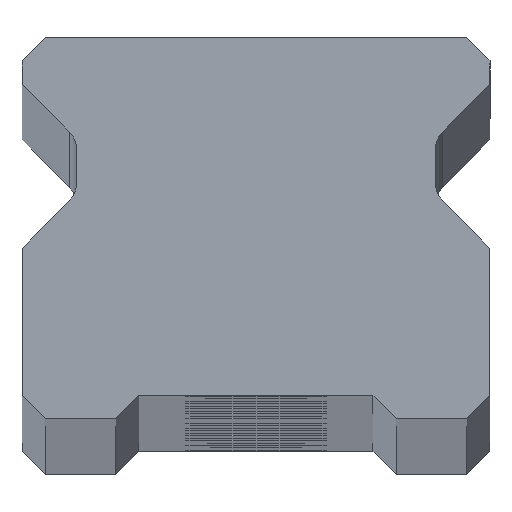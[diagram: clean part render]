
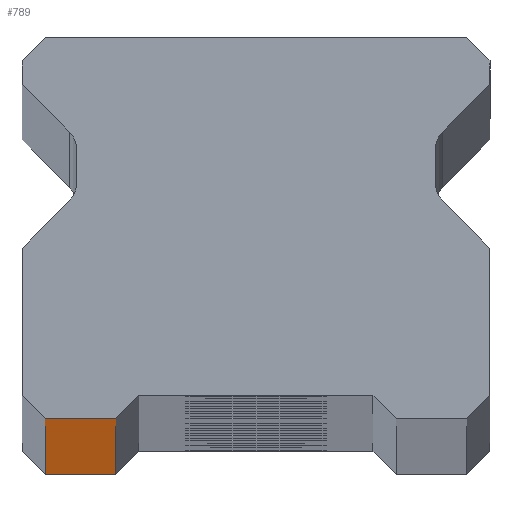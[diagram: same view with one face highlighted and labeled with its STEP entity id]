
A CAD part, top view. The second image highlights one B-rep face of the part: STEP entity #789.
In plain terms, the highlighted planar face has unit normal (0, -1, 0).
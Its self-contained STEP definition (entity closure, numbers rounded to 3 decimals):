
#95 = CARTESIAN_POINT ( 'NONE',  ( 10., 0., 680. ) ) ;
#147 = CARTESIAN_POINT ( 'NONE',  ( -9., 0., -680. ) ) ;
#436 = LINE ( 'NONE', #4140, #3055 ) ;
#497 = LINE ( 'NONE', #2074, #1983 ) ;
#504 = ORIENTED_EDGE ( 'NONE', *, *, #4304, .F. ) ;
#628 = DIRECTION ( 'NONE',  ( 0., 1., 0. ) ) ;
#782 = CARTESIAN_POINT ( 'NONE',  ( -6., 0., -680. ) ) ;
#789 = ADVANCED_FACE ( 'NONE', ( #2173 ), #3006, .F. ) ;
#815 = LINE ( 'NONE', #95, #3648 ) ;
#821 = AXIS2_PLACEMENT_3D ( 'NONE', #3482, #628, #3113 ) ;
#959 = CARTESIAN_POINT ( 'NONE',  ( -6., 0., -680. ) ) ;
#1058 = EDGE_CURVE ( 'NONE', #1438, #2183, #1894, .T. ) ;
#1438 = VERTEX_POINT ( 'NONE', #782 ) ;
#1571 = VECTOR ( 'NONE', #3690, 1000. ) ;
#1894 = LINE ( 'NONE', #959, #1571 ) ;
#1983 = VECTOR ( 'NONE', #3081, 1000. ) ;
#2074 = CARTESIAN_POINT ( 'NONE',  ( 10., 0., -680. ) ) ;
#2173 = FACE_OUTER_BOUND ( 'NONE', #3696, .T. ) ;
#2183 = VERTEX_POINT ( 'NONE', #2430 ) ;
#2190 = ORIENTED_EDGE ( 'NONE', *, *, #2825, .T. ) ;
#2430 = CARTESIAN_POINT ( 'NONE',  ( -6., 0., 680. ) ) ;
#2625 = VERTEX_POINT ( 'NONE', #147 ) ;
#2825 = EDGE_CURVE ( 'NONE', #2625, #1438, #497, .T. ) ;
#3006 = PLANE ( 'NONE',  #821 ) ;
#3027 = ORIENTED_EDGE ( 'NONE', *, *, #1058, .T. ) ;
#3055 = VECTOR ( 'NONE', #4098, 1000. ) ;
#3081 = DIRECTION ( 'NONE',  ( 1., 0., 0. ) ) ;
#3113 = DIRECTION ( 'NONE',  ( -1., 0., 0. ) ) ;
#3336 = VERTEX_POINT ( 'NONE', #3353 ) ;
#3353 = CARTESIAN_POINT ( 'NONE',  ( -9., 0., 680. ) ) ;
#3482 = CARTESIAN_POINT ( 'NONE',  ( 10., 0., 680. ) ) ;
#3648 = VECTOR ( 'NONE', #4198, 1000. ) ;
#3690 = DIRECTION ( 'NONE',  ( 0., 0., 1. ) ) ;
#3696 = EDGE_LOOP ( 'NONE', ( #2190, #3027, #504, #4164 ) ) ;
#4098 = DIRECTION ( 'NONE',  ( 0., 0., -1. ) ) ;
#4140 = CARTESIAN_POINT ( 'NONE',  ( -9., 0., 680. ) ) ;
#4164 = ORIENTED_EDGE ( 'NONE', *, *, #4223, .T. ) ;
#4198 = DIRECTION ( 'NONE',  ( 1., 0., 0. ) ) ;
#4223 = EDGE_CURVE ( 'NONE', #3336, #2625, #436, .T. ) ;
#4304 = EDGE_CURVE ( 'NONE', #3336, #2183, #815, .T. ) ;
